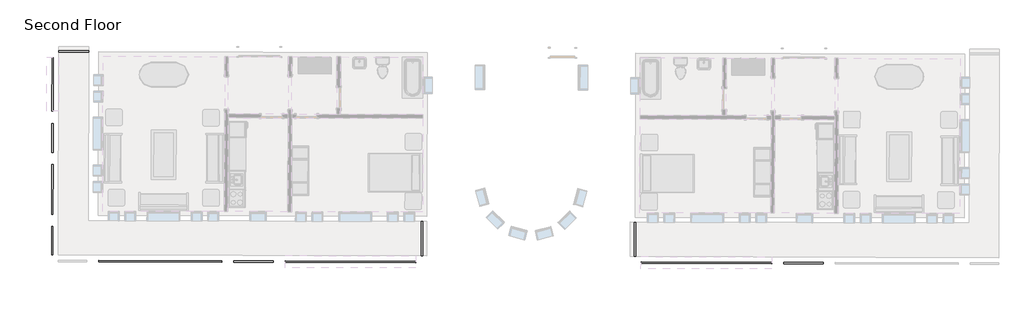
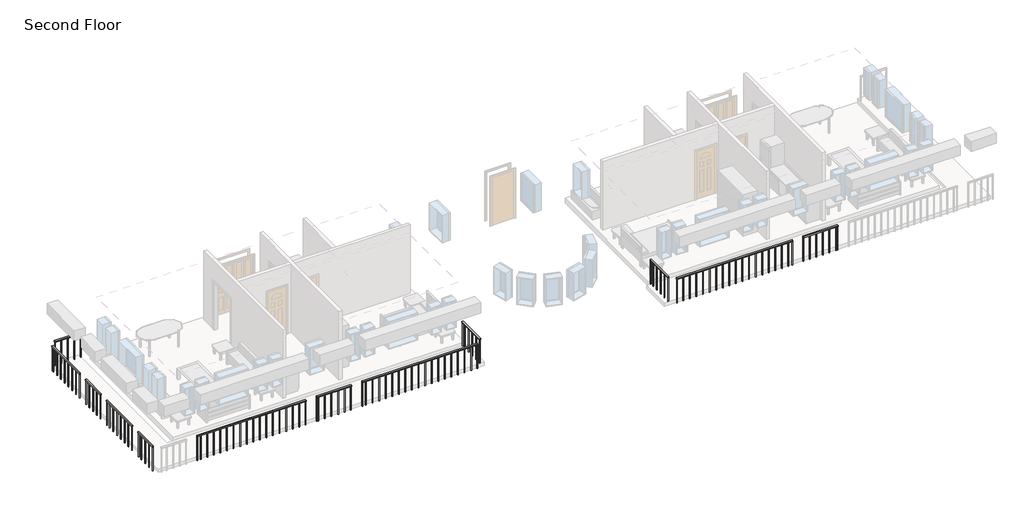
# One storey, part 4 of 8: 12 railings.
"""IFC4 building model written with IfcOpenShell, lengths in millimetres."""

from ifc_helpers import new_model, si_unit, frame, origin, place, context, project, spatial, polyline, outline, extrude, element, save

model = new_model("IFC4")

# Units and contexts
model_context = context("Model", 3, world=origin())
ifc_project = project(units=[si_unit("LENGTHUNIT", "METRE", prefix="MILLI")], contexts=[model_context])

# Site, building, storey
site = spatial("IfcSite", under=ifc_project)
building = spatial("IfcBuilding", under=site)
storey = spatial("IfcBuildingStorey", under=building, Name="Second Floor", Elevation=3048.0)

# Railings
placement = place(None, origin())
element("IfcRailing", 1, ObjectType="1100mm", at=placement, inside=storey, context=model_context, shape_type="SweptSolid", body=[
    extrude(outline(polyline([(-14954.7371889, -43662.8708828), (-14954.5924462, -43612.8710923), (-10112.6127346, -43626.8879749), (-10112.7574773, -43676.8877654), (-14954.7371889, -43662.8708828)])), frame((0.0, 0.0, 4098.0), z_axis=(0.0, 0.0, 1.0), x_axis=(1.0, 0.0, 0.0)), (0.0, 0.0, 1.0), 50.0),
    extrude(outline(polyline([(-10292.1481682, -43638.8682963), (-10267.1482729, -43638.9406676), (-10267.2206443, -43663.9405629), (-10292.2205395, -43663.8681915), (-10292.1481682, -43638.8682963)])), frame((0.0, 0.0, 3048.0), z_axis=(0.0, 0.0, 1.0), x_axis=(1.0, 0.0, 0.0)), (0.0, 0.0, 1.0), 1050.0),
    extrude(outline(polyline([(-10567.1470159, -43638.0722115), (-10542.1471207, -43638.1445828), (-10542.219492, -43663.144478), (-10567.2193872, -43663.0721067), (-10567.1470159, -43638.0722115)])), frame((0.0, 0.0, 3048.0), z_axis=(0.0, 0.0, 1.0), x_axis=(1.0, 0.0, 0.0)), (0.0, 0.0, 1.0), 1050.0),
    extrude(outline(polyline([(-10842.1458636, -43637.2761266), (-10817.1459684, -43637.348498), (-10817.2183397, -43662.3483932), (-10842.218235, -43662.2760219), (-10842.1458636, -43637.2761266)])), frame((0.0, 0.0, 3048.0), z_axis=(0.0, 0.0, 1.0), x_axis=(1.0, 0.0, 0.0)), (0.0, 0.0, 1.0), 1050.0),
    extrude(outline(polyline([(-11117.1447113, -43636.4800418), (-11092.1448161, -43636.5524131), (-11092.2171874, -43661.5523084), (-11117.2170827, -43661.479937), (-11117.1447113, -43636.4800418)])), frame((0.0, 0.0, 3048.0), z_axis=(0.0, 0.0, 1.0), x_axis=(1.0, 0.0, 0.0)), (0.0, 0.0, 1.0), 1050.0),
    extrude(outline(polyline([(-11392.1435591, -43635.683957), (-11367.1436638, -43635.7563283), (-11367.2160352, -43660.7562236), (-11392.2159304, -43660.6838522), (-11392.1435591, -43635.683957)])), frame((0.0, 0.0, 3048.0), z_axis=(0.0, 0.0, 1.0), x_axis=(1.0, 0.0, 0.0)), (0.0, 0.0, 1.0), 1050.0),
    extrude(outline(polyline([(-11667.1424068, -43634.8878721), (-11642.1425115, -43634.9602435), (-11642.2148829, -43659.9601387), (-11667.2147781, -43659.8877674), (-11667.1424068, -43634.8878721)])), frame((0.0, 0.0, 3048.0), z_axis=(0.0, 0.0, 1.0), x_axis=(1.0, 0.0, 0.0)), (0.0, 0.0, 1.0), 1050.0),
    extrude(outline(polyline([(-11942.1412545, -43634.0917873), (-11917.1413593, -43634.1641587), (-11917.2137306, -43659.1640539), (-11942.2136259, -43659.0916826), (-11942.1412545, -43634.0917873)])), frame((0.0, 0.0, 3048.0), z_axis=(0.0, 0.0, 1.0), x_axis=(1.0, 0.0, 0.0)), (0.0, 0.0, 1.0), 1050.0),
    extrude(outline(polyline([(-12217.1401022, -43633.2957025), (-12192.140207, -43633.3680738), (-12192.2125783, -43658.3679691), (-12217.2124736, -43658.2955977), (-12217.1401022, -43633.2957025)])), frame((0.0, 0.0, 3048.0), z_axis=(0.0, 0.0, 1.0), x_axis=(1.0, 0.0, 0.0)), (0.0, 0.0, 1.0), 1050.0),
    extrude(outline(polyline([(-12492.13895, -43632.4996177), (-12467.1390547, -43632.571989), (-12467.2114261, -43657.5718843), (-12492.2113213, -43657.4995129), (-12492.13895, -43632.4996177)])), frame((0.0, 0.0, 3048.0), z_axis=(0.0, 0.0, 1.0), x_axis=(1.0, 0.0, 0.0)), (0.0, 0.0, 1.0), 1050.0),
    extrude(outline(polyline([(-12767.1377977, -43631.7035328), (-12742.1379024, -43631.7759042), (-12742.2102738, -43656.7757994), (-12767.210169, -43656.7034281), (-12767.1377977, -43631.7035328)])), frame((0.0, 0.0, 3048.0), z_axis=(0.0, 0.0, 1.0), x_axis=(1.0, 0.0, 0.0)), (0.0, 0.0, 1.0), 1050.0),
    extrude(outline(polyline([(-13042.1366454, -43630.907448), (-13017.1367502, -43630.9798194), (-13017.2091215, -43655.9797146), (-13042.2090168, -43655.9073433), (-13042.1366454, -43630.907448)])), frame((0.0, 0.0, 3048.0), z_axis=(0.0, 0.0, 1.0), x_axis=(1.0, 0.0, 0.0)), (0.0, 0.0, 1.0), 1050.0),
    extrude(outline(polyline([(-13317.1354931, -43630.1113632), (-13292.1355979, -43630.1837345), (-13292.2079692, -43655.1836298), (-13317.2078645, -43655.1112584), (-13317.1354931, -43630.1113632)])), frame((0.0, 0.0, 3048.0), z_axis=(0.0, 0.0, 1.0), x_axis=(1.0, 0.0, 0.0)), (0.0, 0.0, 1.0), 1050.0),
    extrude(outline(polyline([(-13592.1343409, -43629.3152784), (-13567.1344456, -43629.3876497), (-13567.206817, -43654.387545), (-13592.2067122, -43654.3151736), (-13592.1343409, -43629.3152784)])), frame((0.0, 0.0, 3048.0), z_axis=(0.0, 0.0, 1.0), x_axis=(1.0, 0.0, 0.0)), (0.0, 0.0, 1.0), 1050.0),
    extrude(outline(polyline([(-13867.1331886, -43628.5191935), (-13842.1332933, -43628.5915649), (-13842.2056647, -43653.5914601), (-13867.2055599, -43653.5190888), (-13867.1331886, -43628.5191935)])), frame((0.0, 0.0, 3048.0), z_axis=(0.0, 0.0, 1.0), x_axis=(1.0, 0.0, 0.0)), (0.0, 0.0, 1.0), 1050.0),
    extrude(outline(polyline([(-14142.1320363, -43627.7231087), (-14117.1321411, -43627.7954801), (-14117.2045124, -43652.7953753), (-14142.2044076, -43652.723004), (-14142.1320363, -43627.7231087)])), frame((0.0, 0.0, 3048.0), z_axis=(0.0, 0.0, 1.0), x_axis=(1.0, 0.0, 0.0)), (0.0, 0.0, 1.0), 1050.0),
    extrude(outline(polyline([(-14417.130884, -43626.9270239), (-14392.1309888, -43626.9993952), (-14392.2033601, -43651.9992905), (-14417.2032554, -43651.9269191), (-14417.130884, -43626.9270239)])), frame((0.0, 0.0, 3048.0), z_axis=(0.0, 0.0, 1.0), x_axis=(1.0, 0.0, 0.0)), (0.0, 0.0, 1.0), 1050.0),
    extrude(outline(polyline([(-14692.1297317, -43626.1309391), (-14667.1298365, -43626.2033104), (-14667.2022078, -43651.2032057), (-14692.2021031, -43651.1308343), (-14692.1297317, -43626.1309391)])), frame((0.0, 0.0, 3048.0), z_axis=(0.0, 0.0, 1.0), x_axis=(1.0, 0.0, 0.0)), (0.0, 0.0, 1.0), 1050.0),
    extrude(outline(polyline([(-10137.6488155, -43639.3155512), (-10112.6489203, -43639.3879226), (-10112.7212916, -43664.3878178), (-10137.7211869, -43664.3154465), (-10137.6488155, -43639.3155512)])), frame((0.0, 0.0, 3048.0), z_axis=(0.0, 0.0, 1.0), x_axis=(1.0, 0.0, 0.0)), (0.0, 0.0, 1.0), 1050.0),
    extrude(outline(polyline([(-14954.6286318, -43625.3710399), (-14929.6287366, -43625.4434113), (-14929.7011079, -43650.4433065), (-14954.7010032, -43650.3709351), (-14954.6286318, -43625.3710399)])), frame((0.0, 0.0, 3048.0), z_axis=(0.0, 0.0, 1.0), x_axis=(1.0, 0.0, 0.0)), (0.0, 0.0, 1.0), 1050.0),
])
element("IfcRailing", 2, ObjectType="1100mm", at=placement, inside=storey, context=model_context, shape_type="SweptSolid", body=[
    extrude(outline(polyline([(-9662.7593629, -43678.1904497), (-9662.6146202, -43628.1906592), (-8212.6206958, -43632.3881974), (-8212.7654385, -43682.3879879), (-9662.7593629, -43678.1904497)])), frame((0.0, 0.0, 4098.0), z_axis=(0.0, 0.0, 1.0), x_axis=(1.0, 0.0, 0.0)), (0.0, 0.0, 1.0), 50.0),
    extrude(outline(polyline([(-8300.1565149, -43644.6348453), (-8275.1566196, -43644.7072166), (-8275.228991, -43669.7071119), (-8300.2288862, -43669.6347405), (-8300.1565149, -43644.6348453)])), frame((0.0, 0.0, 3048.0), z_axis=(0.0, 0.0, 1.0), x_axis=(1.0, 0.0, 0.0)), (0.0, 0.0, 1.0), 1050.0),
    extrude(outline(polyline([(-8575.1553626, -43643.8387604), (-8550.1554673, -43643.9111318), (-8550.2278387, -43668.911027), (-8575.2277339, -43668.8386557), (-8575.1553626, -43643.8387604)])), frame((0.0, 0.0, 3048.0), z_axis=(0.0, 0.0, 1.0), x_axis=(1.0, 0.0, 0.0)), (0.0, 0.0, 1.0), 1050.0),
    extrude(outline(polyline([(-8850.1542103, -43643.0426756), (-8825.1543151, -43643.115047), (-8825.2266864, -43668.1149422), (-8850.2265816, -43668.0425709), (-8850.1542103, -43643.0426756)])), frame((0.0, 0.0, 3048.0), z_axis=(0.0, 0.0, 1.0), x_axis=(1.0, 0.0, 0.0)), (0.0, 0.0, 1.0), 1050.0),
    extrude(outline(polyline([(-9125.153058, -43642.2465908), (-9100.1531628, -43642.3189621), (-9100.2255341, -43667.3188574), (-9125.2254294, -43667.246486), (-9125.153058, -43642.2465908)])), frame((0.0, 0.0, 3048.0), z_axis=(0.0, 0.0, 1.0), x_axis=(1.0, 0.0, 0.0)), (0.0, 0.0, 1.0), 1050.0),
    extrude(outline(polyline([(-9400.1519057, -43641.450506), (-9375.1520105, -43641.5228773), (-9375.2243818, -43666.5227726), (-9400.2242771, -43666.4504012), (-9400.1519057, -43641.450506)])), frame((0.0, 0.0, 3048.0), z_axis=(0.0, 0.0, 1.0), x_axis=(1.0, 0.0, 0.0)), (0.0, 0.0, 1.0), 1050.0),
    extrude(outline(polyline([(-8237.6567767, -43644.8157736), (-8212.6568815, -43644.888145), (-8212.7292528, -43669.8880402), (-8237.7291481, -43669.8156689), (-8237.6567767, -43644.8157736)])), frame((0.0, 0.0, 3048.0), z_axis=(0.0, 0.0, 1.0), x_axis=(1.0, 0.0, 0.0)), (0.0, 0.0, 1.0), 1050.0),
    extrude(outline(polyline([(-9662.6508058, -43640.6906068), (-9637.6509106, -43640.7629782), (-9637.7232819, -43665.7628734), (-9662.7231772, -43665.6905021), (-9662.6508058, -43640.6906068)])), frame((0.0, 0.0, 3048.0), z_axis=(0.0, 0.0, 1.0), x_axis=(1.0, 0.0, 0.0)), (0.0, 0.0, 1.0), 1050.0),
])
element("IfcRailing", 3, ObjectType="1100mm", at=placement, inside=storey, context=model_context, shape_type="SweptSolid", body=[
    extrude(outline(polyline([(-15154.0126374, -43412.2929595), (-15204.0124279, -43412.1482168), (-15200.3214891, -42137.1535592), (-15150.3216986, -42137.2983019), (-15154.0126374, -43412.2929595)])), frame((0.0, 0.0, 4098.0), z_axis=(0.0, 0.0, 1.0), x_axis=(1.0, 0.0, 0.0)), (0.0, 0.0, 1.0), 50.0),
    extrude(outline(polyline([(-15188.3643266, -42324.6889592), (-15188.2919553, -42299.689064), (-15163.29206, -42299.7614353), (-15163.3644314, -42324.7613306), (-15188.3643266, -42324.6889592)])), frame((0.0, 0.0, 3048.0), z_axis=(0.0, 0.0, 1.0), x_axis=(1.0, 0.0, 0.0)), (0.0, 0.0, 1.0), 1050.0),
    extrude(outline(polyline([(-15189.1604114, -42599.6878069), (-15189.0880401, -42574.6879117), (-15164.0881448, -42574.760283), (-15164.1605162, -42599.7601783), (-15189.1604114, -42599.6878069)])), frame((0.0, 0.0, 3048.0), z_axis=(0.0, 0.0, 1.0), x_axis=(1.0, 0.0, 0.0)), (0.0, 0.0, 1.0), 1050.0),
    extrude(outline(polyline([(-15189.9564963, -42874.6866547), (-15189.8841249, -42849.6867594), (-15164.8842297, -42849.7591308), (-15164.956601, -42874.759026), (-15189.9564963, -42874.6866547)])), frame((0.0, 0.0, 3048.0), z_axis=(0.0, 0.0, 1.0), x_axis=(1.0, 0.0, 0.0)), (0.0, 0.0, 1.0), 1050.0),
    extrude(outline(polyline([(-15190.7525811, -43149.6855024), (-15190.6802097, -43124.6856071), (-15165.6803145, -43124.7579785), (-15165.7526858, -43149.7578737), (-15190.7525811, -43149.6855024)])), frame((0.0, 0.0, 3048.0), z_axis=(0.0, 0.0, 1.0), x_axis=(1.0, 0.0, 0.0)), (0.0, 0.0, 1.0), 1050.0),
    extrude(outline(polyline([(-15187.8939128, -42162.1896401), (-15187.8215415, -42137.1897449), (-15162.8216462, -42137.2621162), (-15162.8940176, -42162.2620115), (-15187.8939128, -42162.1896401)])), frame((0.0, 0.0, 3048.0), z_axis=(0.0, 0.0, 1.0), x_axis=(1.0, 0.0, 0.0)), (0.0, 0.0, 1.0), 1050.0),
    extrude(outline(polyline([(-15191.5124802, -43412.1844025), (-15191.4401089, -43387.1845072), (-15166.4402136, -43387.2568786), (-15166.512585, -43412.2567738), (-15191.5124802, -43412.1844025)])), frame((0.0, 0.0, 3048.0), z_axis=(0.0, 0.0, 1.0), x_axis=(1.0, 0.0, 0.0)), (0.0, 0.0, 1.0), 1050.0),
])
element("IfcRailing", 4, ObjectType="1100mm", at=placement, inside=storey, context=model_context, shape_type="SweptSolid", body=[
    extrude(outline(polyline([(-23286.0575364, -43588.7526169), (-23286.2022791, -43638.7524074), (-28128.1819906, -43624.7355247), (-28128.0372479, -43574.7357342), (-23286.0575364, -43588.7526169)])), frame((0.0, 0.0, 4098.0), z_axis=(0.0, 0.0, 1.0), x_axis=(1.0, 0.0, 0.0)), (0.0, 0.0, 1.0), 50.0),
    extrude(outline(polyline([(-27948.5741857, -43587.7553081), (-27948.6465571, -43612.7552034), (-27973.6464523, -43612.682832), (-27973.574081, -43587.6829368), (-27948.5741857, -43587.7553081)])), frame((0.0, 0.0, 3048.0), z_axis=(0.0, 0.0, 1.0), x_axis=(1.0, 0.0, 0.0)), (0.0, 0.0, 1.0), 1050.0),
    extrude(outline(polyline([(-27673.575338, -43588.551393), (-27673.6477093, -43613.5512882), (-27698.6476046, -43613.4789169), (-27698.5752332, -43588.4790216), (-27673.575338, -43588.551393)])), frame((0.0, 0.0, 3048.0), z_axis=(0.0, 0.0, 1.0), x_axis=(1.0, 0.0, 0.0)), (0.0, 0.0, 1.0), 1050.0),
    extrude(outline(polyline([(-27398.5764903, -43589.3474778), (-27398.6488616, -43614.347373), (-27423.6487569, -43614.2750017), (-27423.5763855, -43589.2751064), (-27398.5764903, -43589.3474778)])), frame((0.0, 0.0, 3048.0), z_axis=(0.0, 0.0, 1.0), x_axis=(1.0, 0.0, 0.0)), (0.0, 0.0, 1.0), 1050.0),
    extrude(outline(polyline([(-27123.5776425, -43590.1435626), (-27123.6500139, -43615.1434579), (-27148.6499091, -43615.0710865), (-27148.5775378, -43590.0711913), (-27123.5776425, -43590.1435626)])), frame((0.0, 0.0, 3048.0), z_axis=(0.0, 0.0, 1.0), x_axis=(1.0, 0.0, 0.0)), (0.0, 0.0, 1.0), 1050.0),
    extrude(outline(polyline([(-26848.5787948, -43590.9396474), (-26848.6511662, -43615.9395427), (-26873.6510614, -43615.8671713), (-26873.5786901, -43590.8672761), (-26848.5787948, -43590.9396474)])), frame((0.0, 0.0, 3048.0), z_axis=(0.0, 0.0, 1.0), x_axis=(1.0, 0.0, 0.0)), (0.0, 0.0, 1.0), 1050.0),
    extrude(outline(polyline([(-26573.5799471, -43591.7357323), (-26573.6523184, -43616.7356275), (-26598.6522137, -43616.6632562), (-26598.5798423, -43591.6633609), (-26573.5799471, -43591.7357323)])), frame((0.0, 0.0, 3048.0), z_axis=(0.0, 0.0, 1.0), x_axis=(1.0, 0.0, 0.0)), (0.0, 0.0, 1.0), 1050.0),
    extrude(outline(polyline([(-26298.5810994, -43592.5318171), (-26298.6534707, -43617.5317123), (-26323.653366, -43617.459341), (-26323.5809946, -43592.4594458), (-26298.5810994, -43592.5318171)])), frame((0.0, 0.0, 3048.0), z_axis=(0.0, 0.0, 1.0), x_axis=(1.0, 0.0, 0.0)), (0.0, 0.0, 1.0), 1050.0),
    extrude(outline(polyline([(-26023.5822516, -43593.3279019), (-26023.654623, -43618.3277972), (-26048.6545182, -43618.2554258), (-26048.5821469, -43593.2555306), (-26023.5822516, -43593.3279019)])), frame((0.0, 0.0, 3048.0), z_axis=(0.0, 0.0, 1.0), x_axis=(1.0, 0.0, 0.0)), (0.0, 0.0, 1.0), 1050.0),
    extrude(outline(polyline([(-25748.5834039, -43594.1239868), (-25748.6557753, -43619.123882), (-25773.6556705, -43619.0515107), (-25773.5832992, -43594.0516154), (-25748.5834039, -43594.1239868)])), frame((0.0, 0.0, 3048.0), z_axis=(0.0, 0.0, 1.0), x_axis=(1.0, 0.0, 0.0)), (0.0, 0.0, 1.0), 1050.0),
    extrude(outline(polyline([(-25473.5845562, -43594.9200716), (-25473.6569275, -43619.9199668), (-25498.6568228, -43619.8475955), (-25498.5844514, -43594.8477002), (-25473.5845562, -43594.9200716)])), frame((0.0, 0.0, 3048.0), z_axis=(0.0, 0.0, 1.0), x_axis=(1.0, 0.0, 0.0)), (0.0, 0.0, 1.0), 1050.0),
    extrude(outline(polyline([(-25198.5857085, -43595.7161564), (-25198.6580798, -43620.7160517), (-25223.6579751, -43620.6436803), (-25223.5856037, -43595.6437851), (-25198.5857085, -43595.7161564)])), frame((0.0, 0.0, 3048.0), z_axis=(0.0, 0.0, 1.0), x_axis=(1.0, 0.0, 0.0)), (0.0, 0.0, 1.0), 1050.0),
    extrude(outline(polyline([(-24923.5868608, -43596.5122412), (-24923.6592321, -43621.5121365), (-24948.6591273, -43621.4397651), (-24948.586756, -43596.4398699), (-24923.5868608, -43596.5122412)])), frame((0.0, 0.0, 3048.0), z_axis=(0.0, 0.0, 1.0), x_axis=(1.0, 0.0, 0.0)), (0.0, 0.0, 1.0), 1050.0),
    extrude(outline(polyline([(-24648.588013, -43597.3083261), (-24648.6603844, -43622.3082213), (-24673.6602796, -43622.23585), (-24673.5879083, -43597.2359547), (-24648.588013, -43597.3083261)])), frame((0.0, 0.0, 3048.0), z_axis=(0.0, 0.0, 1.0), x_axis=(1.0, 0.0, 0.0)), (0.0, 0.0, 1.0), 1050.0),
    extrude(outline(polyline([(-24373.5891653, -43598.1044109), (-24373.6615367, -43623.1043061), (-24398.6614319, -43623.0319348), (-24398.5890606, -43598.0320395), (-24373.5891653, -43598.1044109)])), frame((0.0, 0.0, 3048.0), z_axis=(0.0, 0.0, 1.0), x_axis=(1.0, 0.0, 0.0)), (0.0, 0.0, 1.0), 1050.0),
    extrude(outline(polyline([(-24098.5903176, -43598.9004957), (-24098.6626889, -43623.900391), (-24123.6625842, -43623.8280196), (-24123.5902128, -43598.8281244), (-24098.5903176, -43598.9004957)])), frame((0.0, 0.0, 3048.0), z_axis=(0.0, 0.0, 1.0), x_axis=(1.0, 0.0, 0.0)), (0.0, 0.0, 1.0), 1050.0),
    extrude(outline(polyline([(-23823.5914699, -43599.6965805), (-23823.6638412, -43624.6964758), (-23848.6637365, -43624.6241044), (-23848.5913651, -43599.6242092), (-23823.5914699, -43599.6965805)])), frame((0.0, 0.0, 3048.0), z_axis=(0.0, 0.0, 1.0), x_axis=(1.0, 0.0, 0.0)), (0.0, 0.0, 1.0), 1050.0),
    extrude(outline(polyline([(-23548.5926221, -43600.4926654), (-23548.6649935, -43625.4925606), (-23573.6648887, -43625.4201893), (-23573.5925174, -43600.420294), (-23548.5926221, -43600.4926654)])), frame((0.0, 0.0, 3048.0), z_axis=(0.0, 0.0, 1.0), x_axis=(1.0, 0.0, 0.0)), (0.0, 0.0, 1.0), 1050.0),
    extrude(outline(polyline([(-28103.0735383, -43587.3080532), (-28103.1459097, -43612.3079485), (-28128.1458049, -43612.2355771), (-28128.0734336, -43587.2356819), (-28103.0735383, -43587.3080532)])), frame((0.0, 0.0, 3048.0), z_axis=(0.0, 0.0, 1.0), x_axis=(1.0, 0.0, 0.0)), (0.0, 0.0, 1.0), 1050.0),
    extrude(outline(polyline([(-23286.093722, -43601.2525645), (-23286.1660934, -43626.2524598), (-23311.1659886, -43626.1800884), (-23311.0936173, -43601.1801932), (-23286.093722, -43601.2525645)])), frame((0.0, 0.0, 3048.0), z_axis=(0.0, 0.0, 1.0), x_axis=(1.0, 0.0, 0.0)), (0.0, 0.0, 1.0), 1050.0),
])
element("IfcRailing", 5, ObjectType="1100mm", at=placement, inside=storey, context=model_context, shape_type="SweptSolid", body=[
    extrude(outline(polyline([(-28578.0353624, -43573.43305), (-28578.1801051, -43623.4328405), (-30028.1740294, -43619.2353023), (-30028.0292867, -43569.2355118), (-28578.0353624, -43573.43305)])), frame((0.0, 0.0, 4098.0), z_axis=(0.0, 0.0, 1.0), x_axis=(1.0, 0.0, 0.0)), (0.0, 0.0, 1.0), 50.0),
    extrude(outline(polyline([(-29940.565839, -43581.9887591), (-29940.6382104, -43606.9886544), (-29965.6381056, -43606.916283), (-29965.5657343, -43581.9163878), (-29940.565839, -43581.9887591)])), frame((0.0, 0.0, 3048.0), z_axis=(0.0, 0.0, 1.0), x_axis=(1.0, 0.0, 0.0)), (0.0, 0.0, 1.0), 1050.0),
    extrude(outline(polyline([(-29665.5669913, -43582.784844), (-29665.6393627, -43607.7847392), (-29690.6392579, -43607.7123679), (-29690.5668866, -43582.7124726), (-29665.5669913, -43582.784844)])), frame((0.0, 0.0, 3048.0), z_axis=(0.0, 0.0, 1.0), x_axis=(1.0, 0.0, 0.0)), (0.0, 0.0, 1.0), 1050.0),
    extrude(outline(polyline([(-29390.5681436, -43583.5809288), (-29390.6405149, -43608.580824), (-29415.6404102, -43608.5084527), (-29415.5680388, -43583.5085574), (-29390.5681436, -43583.5809288)])), frame((0.0, 0.0, 3048.0), z_axis=(0.0, 0.0, 1.0), x_axis=(1.0, 0.0, 0.0)), (0.0, 0.0, 1.0), 1050.0),
    extrude(outline(polyline([(-29115.5692959, -43584.3770136), (-29115.6416672, -43609.3769089), (-29140.6415625, -43609.3045375), (-29140.5691911, -43584.3046423), (-29115.5692959, -43584.3770136)])), frame((0.0, 0.0, 3048.0), z_axis=(0.0, 0.0, 1.0), x_axis=(1.0, 0.0, 0.0)), (0.0, 0.0, 1.0), 1050.0),
    extrude(outline(polyline([(-28840.5704481, -43585.1730985), (-28840.6428195, -43610.1729937), (-28865.6427147, -43610.1006223), (-28865.5703434, -43585.1007271), (-28840.5704481, -43585.1730985)])), frame((0.0, 0.0, 3048.0), z_axis=(0.0, 0.0, 1.0), x_axis=(1.0, 0.0, 0.0)), (0.0, 0.0, 1.0), 1050.0),
    extrude(outline(polyline([(-30003.0655771, -43581.8078308), (-30003.1379485, -43606.807726), (-30028.1378437, -43606.7353547), (-30028.0654724, -43581.7354594), (-30003.0655771, -43581.8078308)])), frame((0.0, 0.0, 3048.0), z_axis=(0.0, 0.0, 1.0), x_axis=(1.0, 0.0, 0.0)), (0.0, 0.0, 1.0), 1050.0),
    extrude(outline(polyline([(-28578.071548, -43585.9329976), (-28578.1439194, -43610.9328929), (-28603.1438146, -43610.8605215), (-28603.0714433, -43585.8606263), (-28578.071548, -43585.9329976)])), frame((0.0, 0.0, 3048.0), z_axis=(0.0, 0.0, 1.0), x_axis=(1.0, 0.0, 0.0)), (0.0, 0.0, 1.0), 1050.0),
])
element("IfcRailing", 6, ObjectType="1100mm", at=placement, inside=storey, context=model_context, shape_type="SweptSolid", body=[
    extrude(outline(polyline([(-30478.0274012, -43567.9328275), (-30478.1721439, -43617.932618), (-35028.1530789, -43604.7610327), (-35028.0083362, -43554.7612422), (-30478.0274012, -43567.9328275)])), frame((0.0, 0.0, 4098.0), z_axis=(0.0, 0.0, 1.0), x_axis=(1.0, 0.0, 0.0)), (0.0, 0.0, 1.0), 50.0),
    extrude(outline(polyline([(-34865.5452028, -43567.7316036), (-34865.6175741, -43592.7314989), (-34890.6174694, -43592.6591275), (-34890.545098, -43567.6592323), (-34865.5452028, -43567.7316036)])), frame((0.0, 0.0, 3048.0), z_axis=(0.0, 0.0, 1.0), x_axis=(1.0, 0.0, 0.0)), (0.0, 0.0, 1.0), 1050.0),
    extrude(outline(polyline([(-34590.5463551, -43568.5276884), (-34590.6187264, -43593.5275837), (-34615.6186217, -43593.4552123), (-34615.5462503, -43568.4553171), (-34590.5463551, -43568.5276884)])), frame((0.0, 0.0, 3048.0), z_axis=(0.0, 0.0, 1.0), x_axis=(1.0, 0.0, 0.0)), (0.0, 0.0, 1.0), 1050.0),
    extrude(outline(polyline([(-34315.5475073, -43569.3237733), (-34315.6198787, -43594.3236685), (-34340.6197739, -43594.2512972), (-34340.5474026, -43569.2514019), (-34315.5475073, -43569.3237733)])), frame((0.0, 0.0, 3048.0), z_axis=(0.0, 0.0, 1.0), x_axis=(1.0, 0.0, 0.0)), (0.0, 0.0, 1.0), 1050.0),
    extrude(outline(polyline([(-34040.5486596, -43570.1198581), (-34040.621031, -43595.1197533), (-34065.6209262, -43595.047382), (-34065.5485549, -43570.0474867), (-34040.5486596, -43570.1198581)])), frame((0.0, 0.0, 3048.0), z_axis=(0.0, 0.0, 1.0), x_axis=(1.0, 0.0, 0.0)), (0.0, 0.0, 1.0), 1050.0),
    extrude(outline(polyline([(-33765.5498119, -43570.9159429), (-33765.6221833, -43595.9158382), (-33790.6220785, -43595.8434668), (-33790.5497072, -43570.8435716), (-33765.5498119, -43570.9159429)])), frame((0.0, 0.0, 3048.0), z_axis=(0.0, 0.0, 1.0), x_axis=(1.0, 0.0, 0.0)), (0.0, 0.0, 1.0), 1050.0),
    extrude(outline(polyline([(-33490.5509642, -43571.7120277), (-33490.6233355, -43596.711923), (-33515.6232308, -43596.6395516), (-33515.5508594, -43571.6396564), (-33490.5509642, -43571.7120277)])), frame((0.0, 0.0, 3048.0), z_axis=(0.0, 0.0, 1.0), x_axis=(1.0, 0.0, 0.0)), (0.0, 0.0, 1.0), 1050.0),
    extrude(outline(polyline([(-33215.5521165, -43572.5081126), (-33215.6244878, -43597.5080078), (-33240.6243831, -43597.4356365), (-33240.5520117, -43572.4357412), (-33215.5521165, -43572.5081126)])), frame((0.0, 0.0, 3048.0), z_axis=(0.0, 0.0, 1.0), x_axis=(1.0, 0.0, 0.0)), (0.0, 0.0, 1.0), 1050.0),
    extrude(outline(polyline([(-32940.5532687, -43573.3041974), (-32940.6256401, -43598.3040926), (-32965.6255353, -43598.2317213), (-32965.553164, -43573.2318261), (-32940.5532687, -43573.3041974)])), frame((0.0, 0.0, 3048.0), z_axis=(0.0, 0.0, 1.0), x_axis=(1.0, 0.0, 0.0)), (0.0, 0.0, 1.0), 1050.0),
    extrude(outline(polyline([(-32665.554421, -43574.1002822), (-32665.6267924, -43599.1001775), (-32690.6266876, -43599.0278061), (-32690.5543163, -43574.0279109), (-32665.554421, -43574.1002822)])), frame((0.0, 0.0, 3048.0), z_axis=(0.0, 0.0, 1.0), x_axis=(1.0, 0.0, 0.0)), (0.0, 0.0, 1.0), 1050.0),
    extrude(outline(polyline([(-32390.5555733, -43574.8963671), (-32390.6279446, -43599.8962623), (-32415.6278399, -43599.823891), (-32415.5554685, -43574.8239957), (-32390.5555733, -43574.8963671)])), frame((0.0, 0.0, 3048.0), z_axis=(0.0, 0.0, 1.0), x_axis=(1.0, 0.0, 0.0)), (0.0, 0.0, 1.0), 1050.0),
    extrude(outline(polyline([(-32115.5567256, -43575.6924519), (-32115.6290969, -43600.6923471), (-32140.6289922, -43600.6199758), (-32140.5566208, -43575.6200805), (-32115.5567256, -43575.6924519)])), frame((0.0, 0.0, 3048.0), z_axis=(0.0, 0.0, 1.0), x_axis=(1.0, 0.0, 0.0)), (0.0, 0.0, 1.0), 1050.0),
    extrude(outline(polyline([(-31840.5578778, -43576.4885367), (-31840.6302492, -43601.488432), (-31865.6301444, -43601.4160606), (-31865.5577731, -43576.4161654), (-31840.5578778, -43576.4885367)])), frame((0.0, 0.0, 3048.0), z_axis=(0.0, 0.0, 1.0), x_axis=(1.0, 0.0, 0.0)), (0.0, 0.0, 1.0), 1050.0),
    extrude(outline(polyline([(-31565.5590301, -43577.2846215), (-31565.6314015, -43602.2845168), (-31590.6312967, -43602.2121454), (-31590.5589254, -43577.2122502), (-31565.5590301, -43577.2846215)])), frame((0.0, 0.0, 3048.0), z_axis=(0.0, 0.0, 1.0), x_axis=(1.0, 0.0, 0.0)), (0.0, 0.0, 1.0), 1050.0),
    extrude(outline(polyline([(-31290.5601824, -43578.0807064), (-31290.6325537, -43603.0806016), (-31315.632449, -43603.0082303), (-31315.5600776, -43578.008335), (-31290.5601824, -43578.0807064)])), frame((0.0, 0.0, 3048.0), z_axis=(0.0, 0.0, 1.0), x_axis=(1.0, 0.0, 0.0)), (0.0, 0.0, 1.0), 1050.0),
    extrude(outline(polyline([(-31015.5613347, -43578.8767912), (-31015.633706, -43603.8766864), (-31040.6336013, -43603.8043151), (-31040.5612299, -43578.8044198), (-31015.5613347, -43578.8767912)])), frame((0.0, 0.0, 3048.0), z_axis=(0.0, 0.0, 1.0), x_axis=(1.0, 0.0, 0.0)), (0.0, 0.0, 1.0), 1050.0),
    extrude(outline(polyline([(-30740.562487, -43579.672876), (-30740.6348583, -43604.6727713), (-30765.6347535, -43604.6003999), (-30765.5623822, -43579.6005047), (-30740.562487, -43579.672876)])), frame((0.0, 0.0, 3048.0), z_axis=(0.0, 0.0, 1.0), x_axis=(1.0, 0.0, 0.0)), (0.0, 0.0, 1.0), 1050.0),
    extrude(outline(polyline([(-35003.0446267, -43567.3335612), (-35003.116998, -43592.3334565), (-35028.1168933, -43592.2610851), (-35028.0445219, -43567.2611899), (-35003.0446267, -43567.3335612)])), frame((0.0, 0.0, 3048.0), z_axis=(0.0, 0.0, 1.0), x_axis=(1.0, 0.0, 0.0)), (0.0, 0.0, 1.0), 1050.0),
    extrude(outline(polyline([(-30478.0635869, -43580.4327752), (-30478.1359582, -43605.4326704), (-30503.1358534, -43605.3602991), (-30503.0634821, -43580.3604038), (-30478.0635869, -43580.4327752)])), frame((0.0, 0.0, 3048.0), z_axis=(0.0, 0.0, 1.0), x_axis=(1.0, 0.0, 0.0)), (0.0, 0.0, 1.0), 1050.0),
])
element("IfcRailing", 7, ObjectType="1100mm", at=placement, inside=storey, context=model_context, shape_type="SweptSolid", body=[
    extrude(outline(polyline([(-36727.4222423, -43349.8408286), (-36777.4220328, -43349.6960859), (-36774.3824362, -42299.7004855), (-36724.3826457, -42299.8452282), (-36727.4222423, -43349.8408286)])), frame((0.0, 0.0, 4098.0), z_axis=(0.0, 0.0, 1.0), x_axis=(1.0, 0.0, 0.0)), (0.0, 0.0, 1.0), 50.0),
    extrude(outline(polyline([(-36737.5701211, -42537.3080474), (-36762.5700163, -42537.235676), (-36762.497645, -42512.2357808), (-36737.4977498, -42512.3081521), (-36737.5701211, -42537.3080474)])), frame((0.0, 0.0, 3048.0), z_axis=(0.0, 0.0, 1.0), x_axis=(1.0, 0.0, 0.0)), (0.0, 0.0, 1.0), 1050.0),
    extrude(outline(polyline([(-36738.3662059, -42812.3068951), (-36763.3661012, -42812.2345238), (-36763.2937298, -42787.2346285), (-36738.2938346, -42787.3069999), (-36738.3662059, -42812.3068951)])), frame((0.0, 0.0, 3048.0), z_axis=(0.0, 0.0, 1.0), x_axis=(1.0, 0.0, 0.0)), (0.0, 0.0, 1.0), 1050.0),
    extrude(outline(polyline([(-36739.1622908, -43087.3057428), (-36764.162186, -43087.2333715), (-36764.0898147, -43062.2334762), (-36739.0899194, -43062.3058476), (-36739.1622908, -43087.3057428)])), frame((0.0, 0.0, 3048.0), z_axis=(0.0, 0.0, 1.0), x_axis=(1.0, 0.0, 0.0)), (0.0, 0.0, 1.0), 1050.0),
    extrude(outline(polyline([(-36736.9549646, -42324.8089378), (-36761.9548599, -42324.7365664), (-36761.8824885, -42299.7366712), (-36736.8825933, -42299.8090425), (-36736.9549646, -42324.8089378)])), frame((0.0, 0.0, 3048.0), z_axis=(0.0, 0.0, 1.0), x_axis=(1.0, 0.0, 0.0)), (0.0, 0.0, 1.0), 1050.0),
    extrude(outline(polyline([(-36739.9221899, -43349.8046429), (-36764.9220852, -43349.7322716), (-36764.8497138, -43324.7323763), (-36739.8498186, -43324.8047477), (-36739.9221899, -43349.8046429)])), frame((0.0, 0.0, 3048.0), z_axis=(0.0, 0.0, 1.0), x_axis=(1.0, 0.0, 0.0)), (0.0, 0.0, 1.0), 1050.0),
])
element("IfcRailing", 8, ObjectType="1100mm", at=placement, inside=storey, context=model_context, shape_type="SweptSolid", body=[
    extrude(outline(polyline([(-36723.0799614, -41849.8471137), (-36773.0797519, -41849.702371), (-36767.7242722, -39999.7101227), (-36717.7244817, -39999.8548654), (-36723.0799614, -41849.8471137)])), frame((0.0, 0.0, 4098.0), z_axis=(0.0, 0.0, 1.0), x_axis=(1.0, 0.0, 0.0)), (0.0, 0.0, 1.0), 50.0),
    extrude(outline(polyline([(-36730.8395857, -40212.3177894), (-36755.839481, -40212.245418), (-36755.7671096, -40187.2455228), (-36730.7672144, -40187.3178941), (-36730.8395857, -40212.3177894)])), frame((0.0, 0.0, 3048.0), z_axis=(0.0, 0.0, 1.0), x_axis=(1.0, 0.0, 0.0)), (0.0, 0.0, 1.0), 1050.0),
    extrude(outline(polyline([(-36731.6356706, -40487.3166371), (-36756.6355658, -40487.2442657), (-36756.5631945, -40462.2443705), (-36731.5632992, -40462.3167418), (-36731.6356706, -40487.3166371)])), frame((0.0, 0.0, 3048.0), z_axis=(0.0, 0.0, 1.0), x_axis=(1.0, 0.0, 0.0)), (0.0, 0.0, 1.0), 1050.0),
    extrude(outline(polyline([(-36732.4317554, -40762.3154848), (-36757.4316506, -40762.2431135), (-36757.3592793, -40737.2432182), (-36732.3593841, -40737.3155896), (-36732.4317554, -40762.3154848)])), frame((0.0, 0.0, 3048.0), z_axis=(0.0, 0.0, 1.0), x_axis=(1.0, 0.0, 0.0)), (0.0, 0.0, 1.0), 1050.0),
    extrude(outline(polyline([(-36733.2278402, -41037.3143325), (-36758.2277355, -41037.2419612), (-36758.1553641, -41012.2420659), (-36733.1554689, -41012.3144373), (-36733.2278402, -41037.3143325)])), frame((0.0, 0.0, 3048.0), z_axis=(0.0, 0.0, 1.0), x_axis=(1.0, 0.0, 0.0)), (0.0, 0.0, 1.0), 1050.0),
    extrude(outline(polyline([(-36734.0239251, -41312.3131802), (-36759.0238203, -41312.2408089), (-36758.951449, -41287.2409137), (-36733.9515537, -41287.313285), (-36734.0239251, -41312.3131802)])), frame((0.0, 0.0, 3048.0), z_axis=(0.0, 0.0, 1.0), x_axis=(1.0, 0.0, 0.0)), (0.0, 0.0, 1.0), 1050.0),
    extrude(outline(polyline([(-36734.8200099, -41587.312028), (-36759.8199051, -41587.2396566), (-36759.7475338, -41562.2397614), (-36734.7476385, -41562.3121327), (-36734.8200099, -41587.312028)])), frame((0.0, 0.0, 3048.0), z_axis=(0.0, 0.0, 1.0), x_axis=(1.0, 0.0, 0.0)), (0.0, 0.0, 1.0), 1050.0),
    extrude(outline(polyline([(-36730.2968006, -40024.818575), (-36755.2966959, -40024.7462037), (-36755.2243245, -39999.7463084), (-36730.2244293, -39999.8186798), (-36730.2968006, -40024.818575)])), frame((0.0, 0.0, 3048.0), z_axis=(0.0, 0.0, 1.0), x_axis=(1.0, 0.0, 0.0)), (0.0, 0.0, 1.0), 1050.0),
    extrude(outline(polyline([(-36735.579909, -41849.8109281), (-36760.5798043, -41849.7385567), (-36760.5074329, -41824.7386615), (-36735.5075377, -41824.8110328), (-36735.579909, -41849.8109281)])), frame((0.0, 0.0, 3048.0), z_axis=(0.0, 0.0, 1.0), x_axis=(1.0, 0.0, 0.0)), (0.0, 0.0, 1.0), 1050.0),
])
element("IfcRailing", 9, ObjectType="1100mm", at=placement, inside=storey, context=model_context, shape_type="SweptSolid", body=[
    extrude(outline(polyline([(-36716.4217974, -39549.856751), (-36766.4215879, -39549.7120083), (-36763.3052777, -38473.2165189), (-36713.3054872, -38473.3612616), (-36716.4217974, -39549.856751)])), frame((0.0, 0.0, 4098.0), z_axis=(0.0, 0.0, 1.0), x_axis=(1.0, 0.0, 0.0)), (0.0, 0.0, 1.0), 50.0),
    extrude(outline(polyline([(-36726.5696762, -38737.3239698), (-36751.5695715, -38737.2515984), (-36751.4972001, -38712.2517032), (-36726.4973049, -38712.3240745), (-36726.5696762, -38737.3239698)])), frame((0.0, 0.0, 3048.0), z_axis=(0.0, 0.0, 1.0), x_axis=(1.0, 0.0, 0.0)), (0.0, 0.0, 1.0), 1050.0),
    extrude(outline(polyline([(-36727.3657611, -39012.3228175), (-36752.3656563, -39012.2504461), (-36752.293285, -38987.2505509), (-36727.2933897, -38987.3229222), (-36727.3657611, -39012.3228175)])), frame((0.0, 0.0, 3048.0), z_axis=(0.0, 0.0, 1.0), x_axis=(1.0, 0.0, 0.0)), (0.0, 0.0, 1.0), 1050.0),
    extrude(outline(polyline([(-36728.1618459, -39287.3216652), (-36753.1617411, -39287.2492939), (-36753.0893698, -39262.2493986), (-36728.0894745, -39262.32177), (-36728.1618459, -39287.3216652)])), frame((0.0, 0.0, 3048.0), z_axis=(0.0, 0.0, 1.0), x_axis=(1.0, 0.0, 0.0)), (0.0, 0.0, 1.0), 1050.0),
    extrude(outline(polyline([(-36725.8778061, -38498.3249712), (-36750.8777014, -38498.2525998), (-36750.80533, -38473.2527046), (-36725.8054348, -38473.3250759), (-36725.8778061, -38498.3249712)])), frame((0.0, 0.0, 3048.0), z_axis=(0.0, 0.0, 1.0), x_axis=(1.0, 0.0, 0.0)), (0.0, 0.0, 1.0), 1050.0),
    extrude(outline(polyline([(-36728.921745, -39549.8205653), (-36753.9216403, -39549.7481939), (-36753.8492689, -39524.7482987), (-36728.8493737, -39524.8206701), (-36728.921745, -39549.8205653)])), frame((0.0, 0.0, 3048.0), z_axis=(0.0, 0.0, 1.0), x_axis=(1.0, 0.0, 0.0)), (0.0, 0.0, 1.0), 1050.0),
])
element("IfcRailing", 10, ObjectType="1100mm", at=placement, inside=storey, context=model_context, shape_type="SweptSolid", body=[
    extrude(outline(polyline([(-36712.0028029, -38023.3631472), (-36762.0025934, -38023.2184045), (-36756.2288073, -36028.7267616), (-36706.2290168, -36028.8715043), (-36712.0028029, -38023.3631472)])), frame((0.0, 0.0, 4098.0), z_axis=(0.0, 0.0, 1.0), x_axis=(1.0, 0.0, 0.0)), (0.0, 0.0, 1.0), 50.0),
    extrude(outline(polyline([(-36718.9663424, -36110.834975), (-36743.9662377, -36110.7626037), (-36743.8938663, -36085.7627085), (-36718.8939711, -36085.8350798), (-36718.9663424, -36110.834975)])), frame((0.0, 0.0, 3048.0), z_axis=(0.0, 0.0, 1.0), x_axis=(1.0, 0.0, 0.0)), (0.0, 0.0, 1.0), 1050.0),
    extrude(outline(polyline([(-36719.7624272, -36385.8338228), (-36744.7623225, -36385.7614514), (-36744.6899511, -36360.7615562), (-36719.6900559, -36360.8339275), (-36719.7624272, -36385.8338228)])), frame((0.0, 0.0, 3048.0), z_axis=(0.0, 0.0, 1.0), x_axis=(1.0, 0.0, 0.0)), (0.0, 0.0, 1.0), 1050.0),
    extrude(outline(polyline([(-36720.5585121, -36660.8326705), (-36745.5584073, -36660.7602991), (-36745.486036, -36635.7604039), (-36720.4861407, -36635.8327752), (-36720.5585121, -36660.8326705)])), frame((0.0, 0.0, 3048.0), z_axis=(0.0, 0.0, 1.0), x_axis=(1.0, 0.0, 0.0)), (0.0, 0.0, 1.0), 1050.0),
    extrude(outline(polyline([(-36721.3545969, -36935.8315182), (-36746.3544921, -36935.7591469), (-36746.2821208, -36910.7592516), (-36721.2822255, -36910.831623), (-36721.3545969, -36935.8315182)])), frame((0.0, 0.0, 3048.0), z_axis=(0.0, 0.0, 1.0), x_axis=(1.0, 0.0, 0.0)), (0.0, 0.0, 1.0), 1050.0),
    extrude(outline(polyline([(-36722.1506817, -37210.8303659), (-36747.150577, -37210.7579946), (-36747.0782056, -37185.7580993), (-36722.0783104, -37185.8304707), (-36722.1506817, -37210.8303659)])), frame((0.0, 0.0, 3048.0), z_axis=(0.0, 0.0, 1.0), x_axis=(1.0, 0.0, 0.0)), (0.0, 0.0, 1.0), 1050.0),
    extrude(outline(polyline([(-36722.9467666, -37485.8292137), (-36747.9466618, -37485.7568423), (-36747.8742905, -37460.7569471), (-36722.8743952, -37460.8293184), (-36722.9467666, -37485.8292137)])), frame((0.0, 0.0, 3048.0), z_axis=(0.0, 0.0, 1.0), x_axis=(1.0, 0.0, 0.0)), (0.0, 0.0, 1.0), 1050.0),
    extrude(outline(polyline([(-36723.7428514, -37760.8280614), (-36748.7427466, -37760.75569), (-36748.6703753, -37735.7557948), (-36723.67048, -37735.8281661), (-36723.7428514, -37760.8280614)])), frame((0.0, 0.0, 3048.0), z_axis=(0.0, 0.0, 1.0), x_axis=(1.0, 0.0, 0.0)), (0.0, 0.0, 1.0), 1050.0),
    extrude(outline(polyline([(-36718.8013357, -36053.8352139), (-36743.801231, -36053.7628425), (-36743.7288596, -36028.7629473), (-36718.7289644, -36028.8353186), (-36718.8013357, -36053.8352139)])), frame((0.0, 0.0, 3048.0), z_axis=(0.0, 0.0, 1.0), x_axis=(1.0, 0.0, 0.0)), (0.0, 0.0, 1.0), 1050.0),
    extrude(outline(polyline([(-36724.5027505, -38023.3269615), (-36749.5026458, -38023.2545901), (-36749.4302744, -37998.2546949), (-36724.4303792, -37998.3270662), (-36724.5027505, -38023.3269615)])), frame((0.0, 0.0, 3048.0), z_axis=(0.0, 0.0, 1.0), x_axis=(1.0, 0.0, 0.0)), (0.0, 0.0, 1.0), 1050.0),
])
element("IfcRailing", 11, ObjectType="1100mm", at=placement, inside=storey, context=model_context, shape_type="SweptSolid", body=[
    extrude(outline(polyline([(-36505.650884, -35829.4513131), (-36505.5061413, -35779.4515226), (-35405.5107504, -35782.6358619), (-35405.6554931, -35832.6356524), (-36505.650884, -35829.4513131)])), frame((0.0, 0.0, 4098.0), z_axis=(0.0, 0.0, 1.0), x_axis=(1.0, 0.0, 0.0)), (0.0, 0.0, 1.0), 50.0),
    extrude(outline(polyline([(-35693.1181028, -35819.3034343), (-35693.0457314, -35794.303539), (-35668.0458362, -35794.3759104), (-35668.1182075, -35819.3758056), (-35693.1181028, -35819.3034343)])), frame((0.0, 0.0, 3048.0), z_axis=(0.0, 0.0, 1.0), x_axis=(1.0, 0.0, 0.0)), (0.0, 0.0, 1.0), 1050.0),
    extrude(outline(polyline([(-35968.1169505, -35818.5073495), (-35968.0445792, -35793.5074542), (-35943.0446839, -35793.5798256), (-35943.1170553, -35818.5797208), (-35968.1169505, -35818.5073495)])), frame((0.0, 0.0, 3048.0), z_axis=(0.0, 0.0, 1.0), x_axis=(1.0, 0.0, 0.0)), (0.0, 0.0, 1.0), 1050.0),
    extrude(outline(polyline([(-36243.1157982, -35817.7112646), (-36243.0434269, -35792.7113694), (-36218.0435316, -35792.7837407), (-36218.115903, -35817.783636), (-36243.1157982, -35817.7112646)])), frame((0.0, 0.0, 3048.0), z_axis=(0.0, 0.0, 1.0), x_axis=(1.0, 0.0, 0.0)), (0.0, 0.0, 1.0), 1050.0),
    extrude(outline(polyline([(-35430.6192027, -35820.0633334), (-35430.5468313, -35795.0634382), (-35405.5469361, -35795.1358095), (-35405.6193074, -35820.1357048), (-35430.6192027, -35820.0633334)])), frame((0.0, 0.0, 3048.0), z_axis=(0.0, 0.0, 1.0), x_axis=(1.0, 0.0, 0.0)), (0.0, 0.0, 1.0), 1050.0),
    extrude(outline(polyline([(-36505.6146983, -35816.9513655), (-36505.542327, -35791.9514702), (-36480.5424317, -35792.0238416), (-36480.6148031, -35817.0237368), (-36505.6146983, -35816.9513655)])), frame((0.0, 0.0, 3048.0), z_axis=(0.0, 0.0, 1.0), x_axis=(1.0, 0.0, 0.0)), (0.0, 0.0, 1.0), 1050.0),
])
element("IfcRailing", 12, ObjectType="1100mm", at=placement, inside=storey, context=model_context, shape_type="SweptSolid", body=[
    extrude(outline(polyline([(-23035.4796131, -43389.4771684), (-23085.4794036, -43389.3324257), (-23081.7884649, -42114.3377681), (-23031.7886744, -42114.4825108), (-23035.4796131, -43389.4771684)])), frame((0.0, 0.0, 4098.0), z_axis=(0.0, 0.0, 1.0), x_axis=(1.0, 0.0, 0.0)), (0.0, 0.0, 1.0), 50.0),
    extrude(outline(polyline([(-23044.8314071, -42301.9455394), (-23069.8313023, -42301.8731681), (-23069.758931, -42276.8732729), (-23044.7590358, -42276.9456442), (-23044.8314071, -42301.9455394)])), frame((0.0, 0.0, 3048.0), z_axis=(0.0, 0.0, 1.0), x_axis=(1.0, 0.0, 0.0)), (0.0, 0.0, 1.0), 1050.0),
    extrude(outline(polyline([(-23045.6274919, -42576.9443872), (-23070.6273872, -42576.8720158), (-23070.5550158, -42551.8721206), (-23045.5551206, -42551.9444919), (-23045.6274919, -42576.9443872)])), frame((0.0, 0.0, 3048.0), z_axis=(0.0, 0.0, 1.0), x_axis=(1.0, 0.0, 0.0)), (0.0, 0.0, 1.0), 1050.0),
    extrude(outline(polyline([(-23046.4235768, -42851.9432349), (-23071.423472, -42851.8708635), (-23071.3511007, -42826.8709683), (-23046.3512054, -42826.9433396), (-23046.4235768, -42851.9432349)])), frame((0.0, 0.0, 3048.0), z_axis=(0.0, 0.0, 1.0), x_axis=(1.0, 0.0, 0.0)), (0.0, 0.0, 1.0), 1050.0),
    extrude(outline(polyline([(-23047.2196616, -43126.9420826), (-23072.2195568, -43126.8697113), (-23072.1471855, -43101.869816), (-23047.1472902, -43101.9421874), (-23047.2196616, -43126.9420826)])), frame((0.0, 0.0, 3048.0), z_axis=(0.0, 0.0, 1.0), x_axis=(1.0, 0.0, 0.0)), (0.0, 0.0, 1.0), 1050.0),
    extrude(outline(polyline([(-23044.3609933, -42139.4462203), (-23069.3608886, -42139.373849), (-23069.2885172, -42114.3739537), (-23044.288622, -42114.4463251), (-23044.3609933, -42139.4462203)])), frame((0.0, 0.0, 3048.0), z_axis=(0.0, 0.0, 1.0), x_axis=(1.0, 0.0, 0.0)), (0.0, 0.0, 1.0), 1050.0),
    extrude(outline(polyline([(-23047.9795607, -43389.4409827), (-23072.979456, -43389.3686114), (-23072.9070846, -43364.3687161), (-23047.9071894, -43364.4410875), (-23047.9795607, -43389.4409827)])), frame((0.0, 0.0, 3048.0), z_axis=(0.0, 0.0, 1.0), x_axis=(1.0, 0.0, 0.0)), (0.0, 0.0, 1.0), 1050.0),
])

save(model, "model.ifc")
